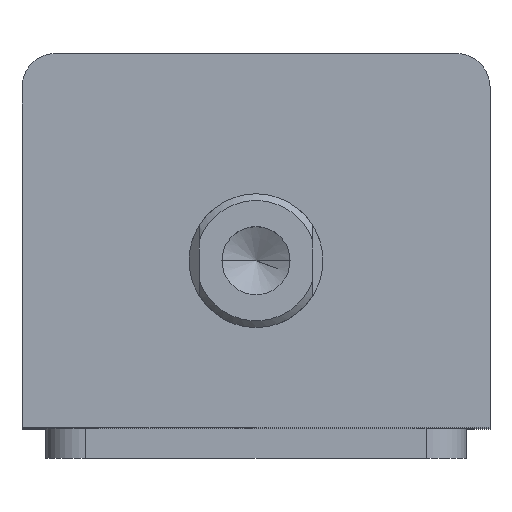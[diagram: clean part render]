
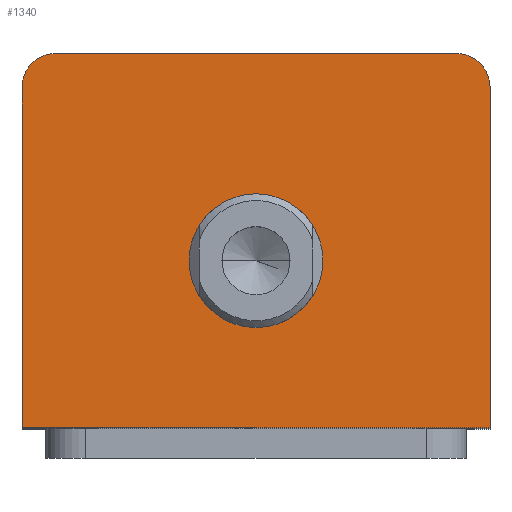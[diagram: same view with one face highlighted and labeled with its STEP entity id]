
A CAD part, top view. The second image highlights one B-rep face of the part: STEP entity #1340.
In plain terms, the highlighted planar face has unit normal (0, 0, 1).
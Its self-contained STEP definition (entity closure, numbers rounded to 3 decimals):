
#78 = EDGE_CURVE ( 'NONE', #1635, #1666, #1865, .T. ) ;
#110 = EDGE_CURVE ( 'NONE', #1712, #1596, #2821, .T. ) ;
#186 = AXIS2_PLACEMENT_3D ( 'NONE', #615, #614, #613 ) ;
#207 = AXIS2_PLACEMENT_3D ( 'NONE', #819, #818, #816 ) ;
#222 = CIRCLE ( 'NONE', #207, 10. ) ;
#271 = LINE ( 'NONE', #752, #282 ) ;
#280 = AXIS2_PLACEMENT_3D ( 'NONE', #2532, #2522, #2520 ) ;
#282 = VECTOR ( 'NONE', #739, 1000. ) ;
#316 = LINE ( 'NONE', #703, #319 ) ;
#319 = VECTOR ( 'NONE', #701, 1000. ) ;
#364 = CIRCLE ( 'NONE', #186, 5. ) ;
#395 = LINE ( 'NONE', #2187, #398 ) ;
#398 = VECTOR ( 'NONE', #2182, 1000. ) ;
#613 = DIRECTION ( 'NONE',  ( 1., 0., 0. ) ) ;
#614 = DIRECTION ( 'NONE',  ( 0., 0., 1. ) ) ;
#615 = CARTESIAN_POINT ( 'NONE',  ( 30., 23., 104. ) ) ;
#701 = DIRECTION ( 'NONE',  ( 0., 1., 0. ) ) ;
#703 = CARTESIAN_POINT ( 'NONE',  ( 35., 28., 104. ) ) ;
#739 = DIRECTION ( 'NONE',  ( 1., 0., 0. ) ) ;
#752 = CARTESIAN_POINT ( 'NONE',  ( -35., -28., 104. ) ) ;
#793 = CARTESIAN_POINT ( 'NONE',  ( -35., 28., 104. ) ) ;
#816 = DIRECTION ( 'NONE',  ( 1., 0., 0. ) ) ;
#818 = DIRECTION ( 'NONE',  ( 0., 0., 1. ) ) ;
#819 = CARTESIAN_POINT ( 'NONE',  ( 0., -3., 104. ) ) ;
#829 = DIRECTION ( 'NONE',  ( 0., -1., 0. ) ) ;
#1096 = ORIENTED_EDGE ( 'NONE', *, *, #2223, .T. ) ;
#1097 = ORIENTED_EDGE ( 'NONE', *, *, #2098, .T. ) ;
#1099 = ORIENTED_EDGE ( 'NONE', *, *, #110, .T. ) ;
#1104 = ORIENTED_EDGE ( 'NONE', *, *, #2297, .T. ) ;
#1106 = ORIENTED_EDGE ( 'NONE', *, *, #2274, .T. ) ;
#1107 = ORIENTED_EDGE ( 'NONE', *, *, #2243, .T. ) ;
#1108 = ORIENTED_EDGE ( 'NONE', *, *, #2194, .F. ) ;
#1109 = ORIENTED_EDGE ( 'NONE', *, *, #78, .F. ) ;
#1340 = ADVANCED_FACE ( 'NONE', ( #3015, #3022 ), #2528, .T. ) ;
#1429 = DIRECTION ( 'NONE',  ( 1., 0., 0. ) ) ;
#1430 = DIRECTION ( 'NONE',  ( 0., 0., 1. ) ) ;
#1432 = CARTESIAN_POINT ( 'NONE',  ( -30., 23., 104. ) ) ;
#1538 = DIRECTION ( 'NONE',  ( 1., 0., 0. ) ) ;
#1540 = DIRECTION ( 'NONE',  ( 0., 0., 1. ) ) ;
#1542 = CARTESIAN_POINT ( 'NONE',  ( 0., -3., 104. ) ) ;
#1596 = VERTEX_POINT ( 'NONE', #2519 ) ;
#1607 = VERTEX_POINT ( 'NONE', #2488 ) ;
#1610 = VERTEX_POINT ( 'NONE', #2482 ) ;
#1635 = VERTEX_POINT ( 'NONE', #2448 ) ;
#1666 = VERTEX_POINT ( 'NONE', #2405 ) ;
#1712 = VERTEX_POINT ( 'NONE', #2342 ) ;
#1713 = VERTEX_POINT ( 'NONE', #2341 ) ;
#1716 = VERTEX_POINT ( 'NONE', #2337 ) ;
#1787 = EDGE_LOOP ( 'NONE', ( #1107, #1106, #1104, #1099, #1097, #1096 ) ) ;
#1811 = EDGE_LOOP ( 'NONE', ( #1109, #1108 ) ) ;
#1865 = CIRCLE ( 'NONE', #2149, 10. ) ;
#2098 = EDGE_CURVE ( 'NONE', #1596, #1610, #3025, .T. ) ;
#2130 = AXIS2_PLACEMENT_3D ( 'NONE', #1432, #1430, #1429 ) ;
#2149 = AXIS2_PLACEMENT_3D ( 'NONE', #1542, #1540, #1538 ) ;
#2182 = DIRECTION ( 'NONE',  ( -1., 0., 0. ) ) ;
#2187 = CARTESIAN_POINT ( 'NONE',  ( -35., 28., 104. ) ) ;
#2194 = EDGE_CURVE ( 'NONE', #1666, #1635, #222, .T. ) ;
#2223 = EDGE_CURVE ( 'NONE', #1610, #1607, #271, .T. ) ;
#2243 = EDGE_CURVE ( 'NONE', #1607, #1716, #316, .T. ) ;
#2274 = EDGE_CURVE ( 'NONE', #1716, #1713, #364, .T. ) ;
#2297 = EDGE_CURVE ( 'NONE', #1713, #1712, #395, .T. ) ;
#2337 = CARTESIAN_POINT ( 'NONE',  ( 35., 23., 104. ) ) ;
#2341 = CARTESIAN_POINT ( 'NONE',  ( 30., 28., 104. ) ) ;
#2342 = CARTESIAN_POINT ( 'NONE',  ( -30., 28., 104. ) ) ;
#2405 = CARTESIAN_POINT ( 'NONE',  ( -10., -3., 104. ) ) ;
#2448 = CARTESIAN_POINT ( 'NONE',  ( 10., -3., 104. ) ) ;
#2482 = CARTESIAN_POINT ( 'NONE',  ( -35., -28., 104. ) ) ;
#2488 = CARTESIAN_POINT ( 'NONE',  ( 35., -28., 104. ) ) ;
#2519 = CARTESIAN_POINT ( 'NONE',  ( -35., 23., 104. ) ) ;
#2520 = DIRECTION ( 'NONE',  ( 1., 0., 0. ) ) ;
#2522 = DIRECTION ( 'NONE',  ( 0., 0., 1. ) ) ;
#2528 = PLANE ( 'NONE',  #280 ) ;
#2532 = CARTESIAN_POINT ( 'NONE',  ( 0., 0., 104. ) ) ;
#2821 = CIRCLE ( 'NONE', #2130, 5. ) ;
#3015 = FACE_BOUND ( 'NONE', #1811, .T. ) ;
#3022 = FACE_OUTER_BOUND ( 'NONE', #1787, .T. ) ;
#3025 = LINE ( 'NONE', #793, #3032 ) ;
#3032 = VECTOR ( 'NONE', #829, 1000. ) ;
